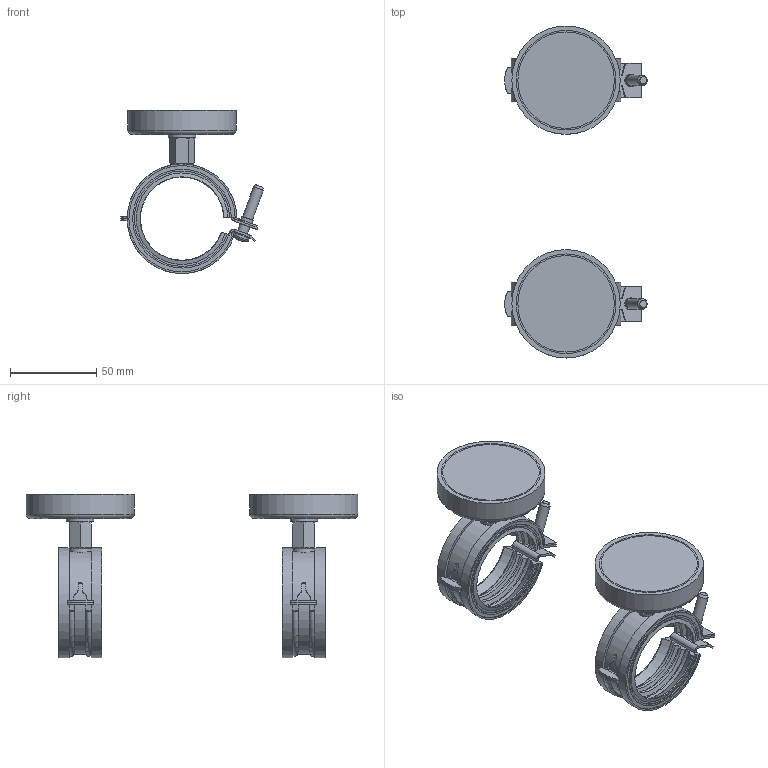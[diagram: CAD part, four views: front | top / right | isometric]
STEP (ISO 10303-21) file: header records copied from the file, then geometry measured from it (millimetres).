
FILE_DESCRIPTION(/* description */ ('Magnethalter Größe "3"'),/* implementation_level */ '2;1');
FILE_NAME(/* name */ '40-099-03-03.stp',/* time_stamp */ '2026-05-11T11:11:16+02:00',/* author */ ('Möller'),/* organization */ (''),/* preprocessor_version */ 'ST-DEVELOPER v20',/* originating_system */ 'Autodesk Inventor 2025',/* authorisation */ '');
FILE_SCHEMA (('AUTOMOTIVE_DESIGN { 1 0 10303 214 3 1 1 }'));
Length unit declared in the file: millimetre
Products named in the file (1): 40-099-03-03
Bounding box: 82.87 x 193 x 94.84 mm (x, y, z)
Volume: 137343.9 mm3; surface area: 60092.4 mm2
Topology: 6 solids, 6 shells, 584 faces, 1596 edges, 1014 vertices
Faces by surface type: plane 322, cylinder 142, cone 62, bspline 38, torus 14, sphere 6
Full cylindrical faces by diameter (mm): 2.5 x4, 6 x4, 6.8 x2, 7 x2, 8 x2, 8.4 x2, 8.5 x2, 10 x2, 10.5 x2, 16 x2, 63 x2
Entity records: 20578 total; most frequent: CARTESIAN_POINT 5007, ORIENTED_EDGE 3200, DIRECTION 3112, EDGE_CURVE 1600, AXIS2_PLACEMENT_3D 1115, VERTEX_POINT 1014, LINE 882, VECTOR 882
